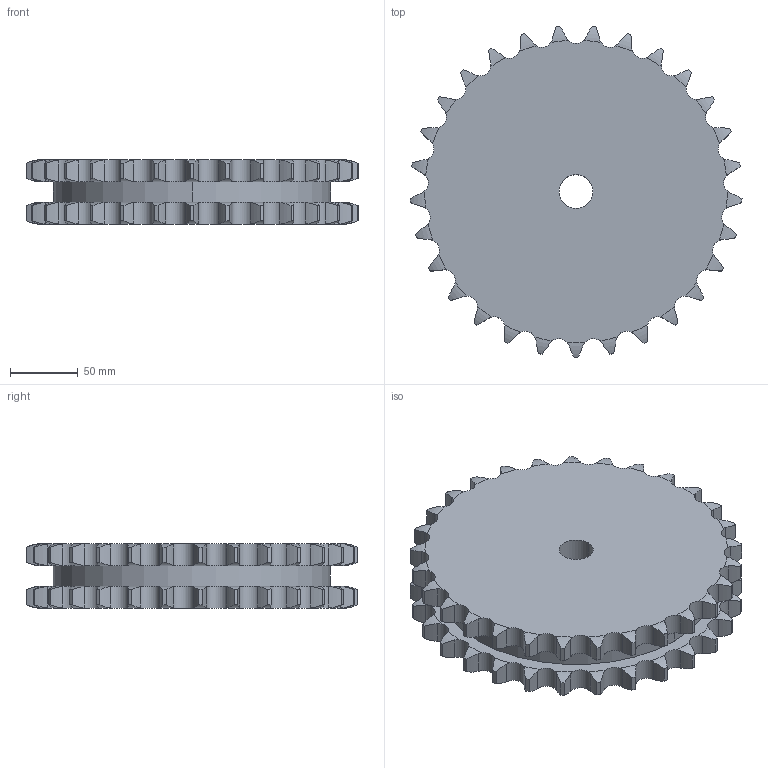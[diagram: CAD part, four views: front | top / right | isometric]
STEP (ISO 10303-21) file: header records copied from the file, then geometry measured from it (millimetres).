
FILE_DESCRIPTION((''),'2;1');
FILE_NAME('500-502-0029_PRT','2021-02-12T',('Brieden'),('Brieden'),'PRO/ENGINEER BY PARAMETRIC TECHNOLOGY CORPORATION, 2010160','PRO/ENGINEER BY PARAMETRIC TECHNOLOGY CORPORATION, 2010160','');
FILE_SCHEMA(('AUTOMOTIVE_DESIGN { 1 0 10303 214 1 1 1 1 }'));
Length unit declared in the file: millimetre
Products named in the file (1): 500-502-0029_PRT
Bounding box: 245.57 x 245.22 x 47.7 mm (x, y, z)
Volume: 1812280.1 mm3; surface area: 146215.2 mm2
Topology: 1 solids, 1 shells, 356 faces, 1056 edges, 704 vertices
Faces by surface type: cylinder 236, torus 116, plane 4
Entity records: 17210 total; most frequent: CARTESIAN_POINT 4999, ORIENTED_EDGE 2112, DIRECTION 1660, PRESENTATION_STYLE_ASSIGNMENT 1057, STYLED_ITEM 1057, CURVE_STYLE 1056, EDGE_CURVE 1056, AXIS2_PLACEMENT_3D 712
